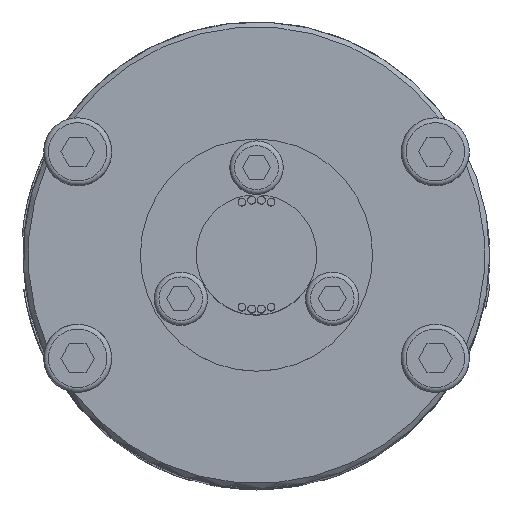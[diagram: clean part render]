
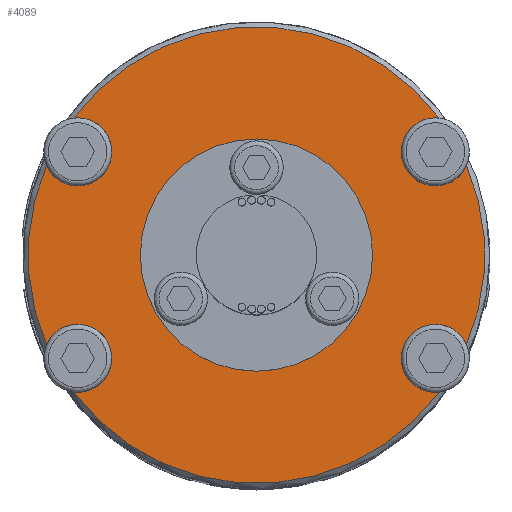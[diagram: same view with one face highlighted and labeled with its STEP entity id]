
A CAD part, top view. The second image highlights one B-rep face of the part: STEP entity #4089.
In plain terms, the highlighted planar face has unit normal (0, 0, 1).
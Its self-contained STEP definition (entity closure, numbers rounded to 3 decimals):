
#635=FACE_BOUND('',#6953,.T.);
#636=FACE_BOUND('',#6954,.T.);
#982=CIRCLE('',#20660,11.95);
#983=CIRCLE('',#20662,3.5);
#984=CIRCLE('',#20663,23.5);
#985=CIRCLE('',#20664,3.5);
#986=CIRCLE('',#20665,23.5);
#987=CIRCLE('',#20666,3.5);
#988=CIRCLE('',#20667,23.5);
#989=CIRCLE('',#20668,3.5);
#990=CIRCLE('',#20669,23.5);
#4089=ADVANCED_FACE('',(#635,#636),#4638,.T.);
#4638=PLANE('',#20670);
#6953=EDGE_LOOP('',(#12513,#12514,#12515,#12516,#12517,#12518,#12519,#12520));
#6954=EDGE_LOOP('',(#12521));
#12513=ORIENTED_EDGE('',*,*,#17332,.F.);
#12514=ORIENTED_EDGE('',*,*,#17333,.T.);
#12515=ORIENTED_EDGE('',*,*,#17334,.F.);
#12516=ORIENTED_EDGE('',*,*,#17335,.T.);
#12517=ORIENTED_EDGE('',*,*,#17336,.F.);
#12518=ORIENTED_EDGE('',*,*,#17337,.T.);
#12519=ORIENTED_EDGE('',*,*,#17338,.F.);
#12520=ORIENTED_EDGE('',*,*,#17339,.T.);
#12521=ORIENTED_EDGE('',*,*,#17331,.F.);
#14568=VERTEX_POINT('',#41401);
#14569=VERTEX_POINT('',#41404);
#14570=VERTEX_POINT('',#41405);
#14571=VERTEX_POINT('',#41407);
#14572=VERTEX_POINT('',#41409);
#14573=VERTEX_POINT('',#41411);
#14574=VERTEX_POINT('',#41413);
#14575=VERTEX_POINT('',#41415);
#14576=VERTEX_POINT('',#41417);
#17331=EDGE_CURVE('',#14568,#14568,#982,.T.);
#17332=EDGE_CURVE('',#14569,#14570,#983,.T.);
#17333=EDGE_CURVE('',#14569,#14571,#984,.T.);
#17334=EDGE_CURVE('',#14572,#14571,#985,.T.);
#17335=EDGE_CURVE('',#14572,#14573,#986,.T.);
#17336=EDGE_CURVE('',#14574,#14573,#987,.T.);
#17337=EDGE_CURVE('',#14574,#14575,#988,.T.);
#17338=EDGE_CURVE('',#14576,#14575,#989,.T.);
#17339=EDGE_CURVE('',#14576,#14570,#990,.T.);
#20660=AXIS2_PLACEMENT_3D('',#41400,#23719,#23720);
#20662=AXIS2_PLACEMENT_3D('',#41403,#23723,#23724);
#20663=AXIS2_PLACEMENT_3D('',#41406,#23725,#23726);
#20664=AXIS2_PLACEMENT_3D('',#41408,#23727,#23728);
#20665=AXIS2_PLACEMENT_3D('',#41410,#23729,#23730);
#20666=AXIS2_PLACEMENT_3D('',#41412,#23731,#23732);
#20667=AXIS2_PLACEMENT_3D('',#41414,#23733,#23734);
#20668=AXIS2_PLACEMENT_3D('',#41416,#23735,#23736);
#20669=AXIS2_PLACEMENT_3D('',#41418,#23737,#23738);
#20670=AXIS2_PLACEMENT_3D('',#41419,#23739,#23740);
#23719=DIRECTION('',(0.,0.,1.));
#23720=DIRECTION('',(0.,1.,0.));
#23723=DIRECTION('',(0.,0.,1.));
#23724=DIRECTION('',(1.,0.,0.));
#23725=DIRECTION('',(0.,0.,1.));
#23726=DIRECTION('',(1.,0.,0.));
#23727=DIRECTION('',(0.,0.,1.));
#23728=DIRECTION('',(1.,0.,0.));
#23729=DIRECTION('',(0.,0.,1.));
#23730=DIRECTION('',(1.,0.,0.));
#23731=DIRECTION('',(0.,0.,1.));
#23732=DIRECTION('',(1.,0.,0.));
#23733=DIRECTION('',(0.,0.,1.));
#23734=DIRECTION('',(1.,0.,0.));
#23735=DIRECTION('',(0.,0.,1.));
#23736=DIRECTION('',(1.,0.,0.));
#23737=DIRECTION('',(0.,0.,1.));
#23738=DIRECTION('',(1.,0.,0.));
#23739=DIRECTION('',(0.,0.,1.));
#23740=DIRECTION('',(1.,0.,0.));
#41400=CARTESIAN_POINT('',(0.,0.,114.));
#41401=CARTESIAN_POINT('',(0.,11.95,114.));
#41403=CARTESIAN_POINT('',(-18.403,-10.625,114.));
#41404=CARTESIAN_POINT('',(-18.798,-14.103,114.));
#41405=CARTESIAN_POINT('',(-21.612,-9.228,114.));
#41406=CARTESIAN_POINT('',(0.,0.,114.));
#41407=CARTESIAN_POINT('',(18.798,-14.103,114.));
#41408=CARTESIAN_POINT('',(18.403,-10.625,114.));
#41409=CARTESIAN_POINT('',(21.612,-9.228,114.));
#41410=CARTESIAN_POINT('',(0.,0.,114.));
#41411=CARTESIAN_POINT('',(21.612,9.228,114.));
#41412=CARTESIAN_POINT('',(18.403,10.625,114.));
#41413=CARTESIAN_POINT('',(18.798,14.103,114.));
#41414=CARTESIAN_POINT('',(0.,0.,114.));
#41415=CARTESIAN_POINT('',(-18.798,14.103,114.));
#41416=CARTESIAN_POINT('',(-18.403,10.625,114.));
#41417=CARTESIAN_POINT('',(-21.612,9.228,114.));
#41418=CARTESIAN_POINT('',(0.,0.,114.));
#41419=CARTESIAN_POINT('',(0.,0.,114.));
